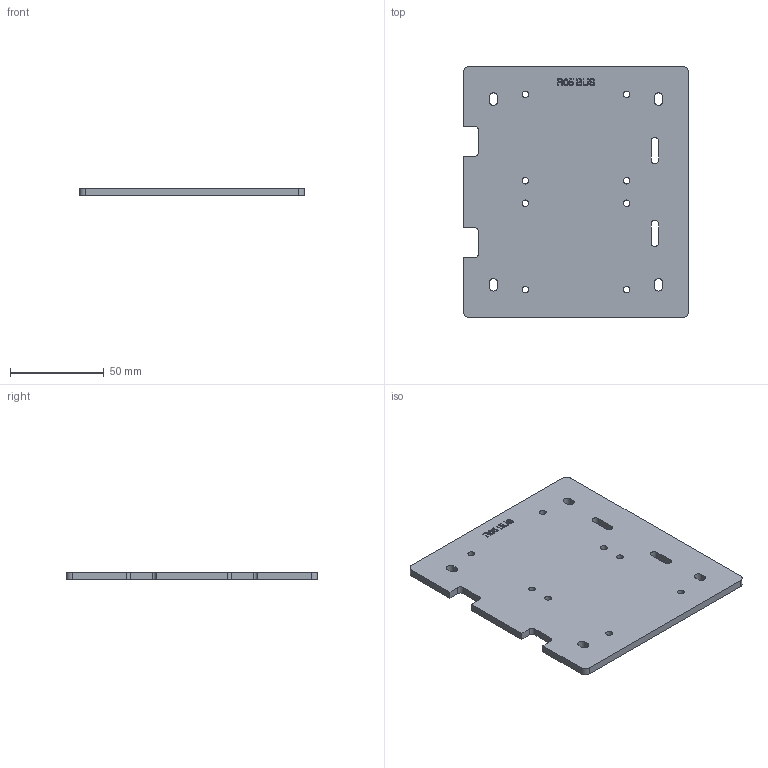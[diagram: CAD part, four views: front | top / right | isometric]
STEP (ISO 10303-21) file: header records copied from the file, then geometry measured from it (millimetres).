
FILE_DESCRIPTION(('Open CASCADE Model'),'2;1');
FILE_NAME('Open CASCADE Shape Model','2026-10-14T15:05:44',('Author'),( 'Open CASCADE'),'Open CASCADE STEP processor 7.8','Open CASCADE 7.8' ,'Unknown');
FILE_SCHEMA(('AUTOMOTIVE_DESIGN { 1 0 10303 214 1 1 1 1 }'));
Length unit declared in the file: millimetre
Products named in the file (1): Open CASCADE STEP translator 7.8 4
Bounding box: 120 x 133.8 x 4 mm (x, y, z)
Volume: 62028.7 mm3; surface area: 34111.5 mm2
Topology: 1 solids, 1 shells, 211 faces, 597 edges, 398 vertices
Faces by surface type: extrusion 109, plane 74, cylinder 28
Full cylindrical faces by diameter (mm): 3.5 x8
Entity records: 17354 total; most frequent: CARTESIAN_POINT 6709, DIRECTION 1419, ORIENTED_EDGE 1194, PCURVE 1194, DEFINITIONAL_REPRESENTATION 1194, VECTOR 1087, LINE 978, B_SPLINE_CURVE_WITH_KNOTS 810
